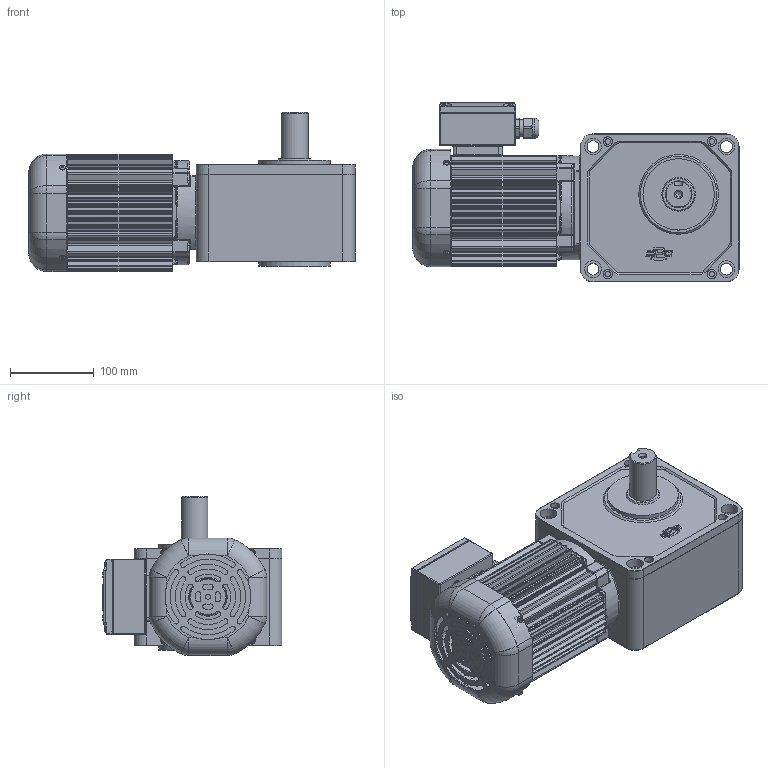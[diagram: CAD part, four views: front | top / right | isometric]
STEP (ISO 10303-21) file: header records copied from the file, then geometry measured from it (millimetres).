
FILE_DESCRIPTION(/* description */ (''),/* implementation_level */ '2;1');
FILE_NAME(/* name */ 'Z:\동력 3D 파일\PCS32L_0.4kW_3D.stp',/* time_stamp */ '2021-11-09T11:27:19+09:00',/* author */ ('jaebok'),/* organization */ (''),/* preprocessor_version */ 'ST-DEVELOPER v18.1',/* originating_system */ 'Autodesk Inventor 2022',/* authorisation */ '');
FILE_SCHEMA (('AUTOMOTIVE_DESIGN { 1 0 10303 214 3 1 1 }'));
Products named in the file (1): 부품54
Bounding box: 388.5 x 214 x 189.5 mm (x, y, z)
Volume: 2630714.2 mm3; surface area: 653235.7 mm2
Topology: 1 solids, 26 shells, 1997 faces, 5151 edges, 3243 vertices
Faces by surface type: plane 853, cylinder 741, torus 172, bspline 103, cone 96, sphere 32
Full cylindrical faces by diameter (mm): 3.242 x5, 3.25 x1, 3.5 x4, 3.6 x4, 4 x21, 5 x13, 5.386 x4, 6 x13, 6.5 x4, 6.647 x1, 7 x12, 8 x1, 10 x1, 11 x4, 12.5 x1, 14 x4, 15 x1, 18 x1, 20 x14, 21 x1, 23.6 x1, 25 x1, 30 x1, 31 x1, 32 x1, 40 x3, 44 x1, 54.5 x1, 68 x1, 72 x2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
Entity records: 66829 total; most frequent: CARTESIAN_POINT 15633, DIRECTION 10635, ORIENTED_EDGE 10184, EDGE_CURVE 5092, AXIS2_PLACEMENT_3D 4101, VERTEX_POINT 3243, LINE 2433, VECTOR 2433
